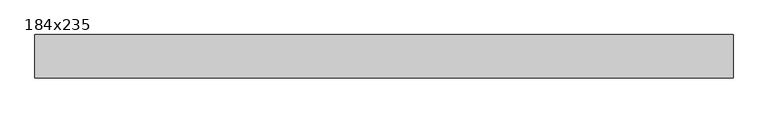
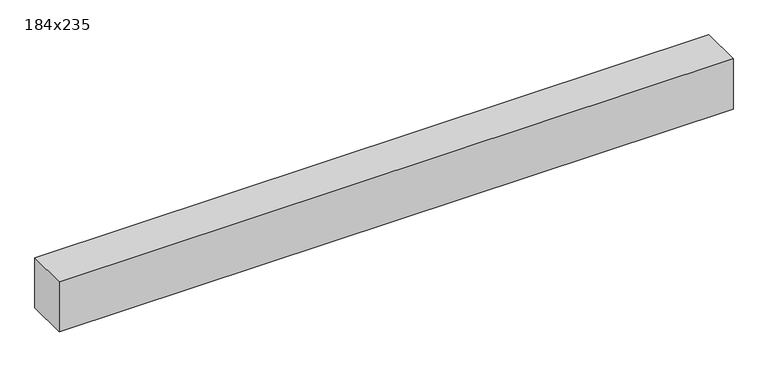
"""IFC4 building model written with IfcOpenShell, lengths in millimetres: beam geometry, Poutre - Bois d'oeuvre : 184x235."""

from ifc_helpers import new_model, si_unit, frame, origin, place, context, project, spatial, polyline, outline, extrude, source, transform, mapped, element, save


def beam_184x235_584ee816(model_context):
    return source(origin(), model_context, "Body", "SweptSolid", [
        extrude(outline(polyline([(1532.0, 95.25), (1532.0, -95.25), (-1532.0, -95.25), (-1532.0, 95.25), (1532.0, 95.25)])), frame((0.0, 0.0, -120.65), z_axis=(0.0, 0.0, 1.0), x_axis=(1.0, 0.0, 0.0)), (0.0, 0.0, 1.0), 241.3),
    ])


if __name__ == "__main__":
    model = new_model("IFC4")
    model_context = context("Model", 3, world=origin())
    ifc_project = project(units=[si_unit("LENGTHUNIT", "METRE", prefix="MILLI")], contexts=[model_context])
    site = spatial("IfcSite", under=ifc_project)
    building = spatial("IfcBuilding", under=site)
    placement = place(None, origin())
    beam_184x235_shape = beam_184x235_584ee816(model_context)
    element("IfcBeam", 1, ObjectType="Poutre - Bois d'oeuvre : 184x235", at=placement, inside=building, context=model_context, shape_type="MappedRepresentation", body=[
        mapped(beam_184x235_shape, transform((0.0, 0.0, 0.0), x_axis=(1.0, 0.0, 0.0), y_axis=(0.0, 1.0, 0.0), z_axis=(0.0, 0.0, 1.0))),
    ])
    save(model, "model.ifc")
